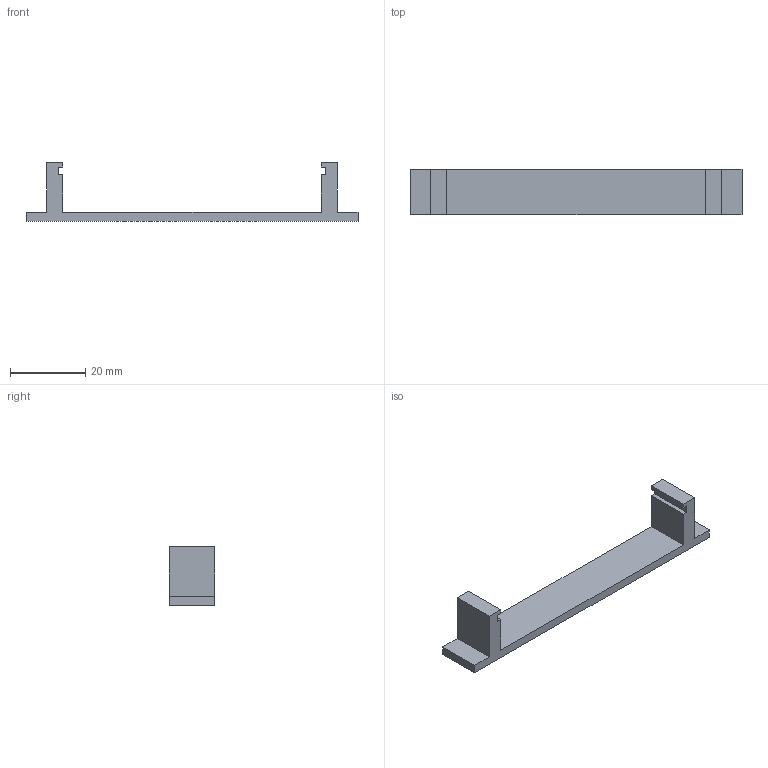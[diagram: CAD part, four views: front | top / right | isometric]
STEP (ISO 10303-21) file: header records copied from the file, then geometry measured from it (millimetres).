
FILE_DESCRIPTION(('Open CASCADE Model'),'2;1');
FILE_NAME('Open CASCADE Shape Model','2026-10-06T09:51:05',('Author'),( 'Open CASCADE'),'Open CASCADE STEP processor 7.9','Open CASCADE 7.9' ,'Unknown');
FILE_SCHEMA(('AUTOMOTIVE_DESIGN { 1 0 10303 214 1 1 1 1 }'));
Length unit declared in the file: millimetre
Products named in the file (1): Open CASCADE STEP translator 7.9 6
Bounding box: 88 x 12 x 15.6 mm (x, y, z)
Volume: 3834.2 mm3; surface area: 3504.6 mm2
Topology: 1 solids, 1 shells, 22 faces, 60 edges, 40 vertices
Faces by surface type: plane 22
Entity records: 1474 total; most frequent: CARTESIAN_POINT 243, DIRECTION 226, LINE 180, VECTOR 180, ORIENTED_EDGE 120, PCURVE 120, DEFINITIONAL_REPRESENTATION 120, EDGE_CURVE 60
